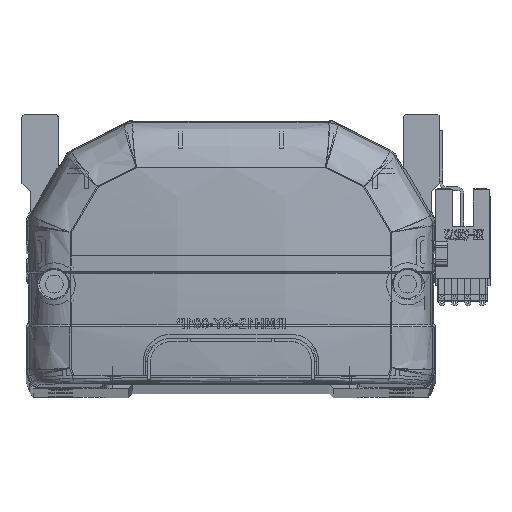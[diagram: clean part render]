
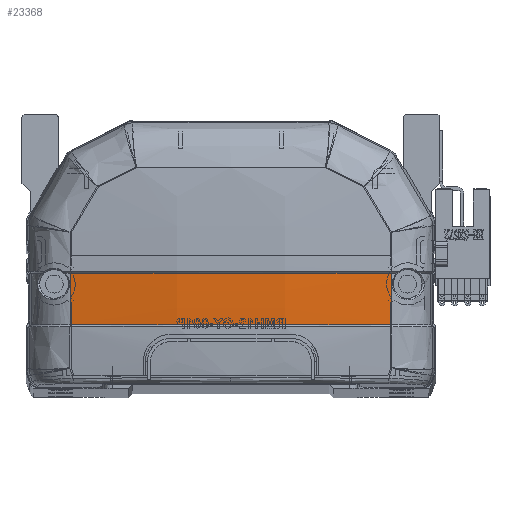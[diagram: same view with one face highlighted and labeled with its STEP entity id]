
A CAD part, top view. The second image highlights one B-rep face of the part: STEP entity #23368.
In plain terms, the highlighted free-form (B-spline) face has degree [3, 3] with [4, 4] control points.
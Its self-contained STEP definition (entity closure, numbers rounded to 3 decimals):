
#143 = CARTESIAN_POINT ( 'NONE',  ( 39.966, 24.413, -6.306 ) ) ;
#1215 = CARTESIAN_POINT ( 'NONE',  ( -23.389, 15.83, -7.947 ) ) ;
#3658 = CARTESIAN_POINT ( 'NONE',  ( -40.461, 20.111, -6.066 ) ) ;
#4275 = FACE_OUTER_BOUND ( 'NONE', #27372, .T. ) ;
#4569 = CARTESIAN_POINT ( 'NONE',  ( -33.365, 15.83, -6.848 ) ) ;
#5233 = CARTESIAN_POINT ( 'NONE',  ( -36.679, 15.83, -6.395 ) ) ;
#6100 = CARTESIAN_POINT ( 'NONE',  ( 39.985, 15.83, -5.879 ) ) ;
#7838 = CARTESIAN_POINT ( 'NONE',  ( 40.461, 24.47, -6.231 ) ) ;
#8007 = CARTESIAN_POINT ( 'NONE',  ( -13.373, 28.707, -9.468 ) ) ;
#8100 = CARTESIAN_POINT ( 'NONE',  ( 39.963, 28.706, -6.372 ) ) ;
#11338 = CARTESIAN_POINT ( 'NONE',  ( 40.461, 15.757, -5.8 ) ) ;
#11673 = CARTESIAN_POINT ( 'NONE',  ( 13.598, 15.499, -10.032 ) ) ;
#11729 = B_SPLINE_CURVE_WITH_KNOTS ( 'NONE', 3,
 ( #16345, #44170, #8007, #22968, #16178, #47640 ),
 .UNSPECIFIED., .F., .F.,
 ( 4, 2, 4 ),
 ( 0., 0.5, 1. ),
 .UNSPECIFIED. ) ;
#12010 = CARTESIAN_POINT ( 'NONE',  ( -13.598, 15.499, -10.032 ) ) ;
#12350 = CARTESIAN_POINT ( 'NONE',  ( 39.973, 20.12, -6.142 ) ) ;
#13095 = CARTESIAN_POINT ( 'NONE',  ( 13.38, 15.83, -8.984 ) ) ;
#13252 = CARTESIAN_POINT ( 'NONE',  ( -39.985, 15.83, -5.879 ) ) ;
#15667 = CARTESIAN_POINT ( 'NONE',  ( 13.598, 24.342, -10.47 ) ) ;
#16178 = CARTESIAN_POINT ( 'NONE',  ( 26.749, 28.706, -8.432 ) ) ;
#16345 = CARTESIAN_POINT ( 'NONE',  ( -39.963, 28.706, -6.372 ) ) ;
#17854 = EDGE_CURVE ( 'NONE', #39097, #21864, #41471, .T. ) ;
#19193 = CARTESIAN_POINT ( 'NONE',  ( -39.966, 24.412, -6.306 ) ) ;
#19506 = CARTESIAN_POINT ( 'NONE',  ( -40.461, 28.832, -6.296 ) ) ;
#19850 = CARTESIAN_POINT ( 'NONE',  ( -13.598, 24.342, -10.47 ) ) ;
#21864 = VERTEX_POINT ( 'NONE', #8100 ) ;
#22271 = EDGE_CURVE ( 'NONE', #35466, #38676, #23607, .T. ) ;
#22968 = CARTESIAN_POINT ( 'NONE',  ( 13.375, 28.707, -9.468 ) ) ;
#23033 = CARTESIAN_POINT ( 'NONE',  ( -40.461, 15.757, -5.8 ) ) ;
#23368 = ADVANCED_FACE ( 'NONE', ( #4275 ), #31316, .F. ) ;
#23607 = B_SPLINE_CURVE_WITH_KNOTS ( 'NONE', 3,
 ( #27000, #19193, #24056, #48005 ),
 .UNSPECIFIED., .F., .F.,
 ( 4, 4 ),
 ( 0., 1. ),
 .UNSPECIFIED. ) ;
#24056 = CARTESIAN_POINT ( 'NONE',  ( -39.973, 20.118, -6.142 ) ) ;
#24524 = CARTESIAN_POINT ( 'NONE',  ( 39.985, 15.83, -5.879 ) ) ;
#24775 = CARTESIAN_POINT ( 'NONE',  ( -39.985, 15.83, -5.879 ) ) ;
#25106 = CARTESIAN_POINT ( 'NONE',  ( 26.761, 15.83, -7.945 ) ) ;
#27000 = CARTESIAN_POINT ( 'NONE',  ( -39.963, 28.706, -6.372 ) ) ;
#27186 = ORIENTED_EDGE ( 'NONE', *, *, #27282, .F. ) ;
#27282 = EDGE_CURVE ( 'NONE', #35466, #21864, #11729, .T. ) ;
#27372 = EDGE_LOOP ( 'NONE', ( #47567, #27186, #43004, #43536 ) ) ;
#27700 = B_SPLINE_CURVE_WITH_KNOTS ( 'NONE', 3,
 ( #48874, #25106, #13095, #40405, #44233, #1215, #28588, #4569, #5233, #24775 ),
 .UNSPECIFIED., .F., .F.,
 ( 4, 2, 2, 2, 4 ),
 ( 0., 0.04, 0.06, 0.07, 0.08 ),
 .UNSPECIFIED. ) ;
#28588 = CARTESIAN_POINT ( 'NONE',  ( -26.721, 15.83, -7.624 ) ) ;
#31316 =( BOUNDED_SURFACE ( )  B_SPLINE_SURFACE ( 3, 3, ( 
 ( #11338, #31465, #7838, #39837 ),
 ( #11673, #47113, #15667, #35807 ),
 ( #12010, #43302, #19850, #47636 ),
 ( #23033, #3658, #31638, #19506 ) ),
 .UNSPECIFIED., .F., .F., .F. ) 
 B_SPLINE_SURFACE_WITH_KNOTS ( ( 4, 4 ),
 ( 4, 4 ),
 ( 0., 1. ),
 ( 0., 1. ),
 .UNSPECIFIED. ) 
 GEOMETRIC_REPRESENTATION_ITEM ( )  RATIONAL_B_SPLINE_SURFACE ( (
 ( 1., 1., 1., 1.),
 ( 0.992, 0.992, 0.992, 0.992),
 ( 0.992, 0.992, 0.992, 0.992),
 ( 1., 1., 1., 1.) ) ) 
 REPRESENTATION_ITEM ( '' )  SURFACE ( )  );
#31465 = CARTESIAN_POINT ( 'NONE',  ( 40.461, 20.111, -6.066 ) ) ;
#31638 = CARTESIAN_POINT ( 'NONE',  ( -40.461, 24.47, -6.231 ) ) ;
#35466 = VERTEX_POINT ( 'NONE', #40496 ) ;
#35807 = CARTESIAN_POINT ( 'NONE',  ( 13.598, 28.769, -10.535 ) ) ;
#38676 = VERTEX_POINT ( 'NONE', #13252 ) ;
#39097 = VERTEX_POINT ( 'NONE', #6100 ) ;
#39837 = CARTESIAN_POINT ( 'NONE',  ( 40.461, 28.832, -6.296 ) ) ;
#40331 = CARTESIAN_POINT ( 'NONE',  ( 39.963, 28.706, -6.372 ) ) ;
#40405 = CARTESIAN_POINT ( 'NONE',  ( -6.692, 15.83, -8.984 ) ) ;
#40496 = CARTESIAN_POINT ( 'NONE',  ( -39.963, 28.706, -6.372 ) ) ;
#41471 = B_SPLINE_CURVE_WITH_KNOTS ( 'NONE', 3,
 ( #24524, #12350, #143, #40331 ),
 .UNSPECIFIED., .F., .F.,
 ( 4, 4 ),
 ( 0., 1. ),
 .UNSPECIFIED. ) ;
#43004 = ORIENTED_EDGE ( 'NONE', *, *, #22271, .T. ) ;
#43302 = CARTESIAN_POINT ( 'NONE',  ( -13.598, 19.918, -10.302 ) ) ;
#43536 = ORIENTED_EDGE ( 'NONE', *, *, #50655, .F. ) ;
#44170 = CARTESIAN_POINT ( 'NONE',  ( -26.748, 28.706, -8.432 ) ) ;
#44233 = CARTESIAN_POINT ( 'NONE',  ( -13.384, 15.83, -8.724 ) ) ;
#47113 = CARTESIAN_POINT ( 'NONE',  ( 13.598, 19.918, -10.302 ) ) ;
#47567 = ORIENTED_EDGE ( 'NONE', *, *, #17854, .T. ) ;
#47636 = CARTESIAN_POINT ( 'NONE',  ( -13.598, 28.769, -10.535 ) ) ;
#47640 = CARTESIAN_POINT ( 'NONE',  ( 39.963, 28.706, -6.372 ) ) ;
#48005 = CARTESIAN_POINT ( 'NONE',  ( -39.985, 15.83, -5.879 ) ) ;
#48874 = CARTESIAN_POINT ( 'NONE',  ( 39.985, 15.83, -5.879 ) ) ;
#50655 = EDGE_CURVE ( 'NONE', #39097, #38676, #27700, .T. ) ;
